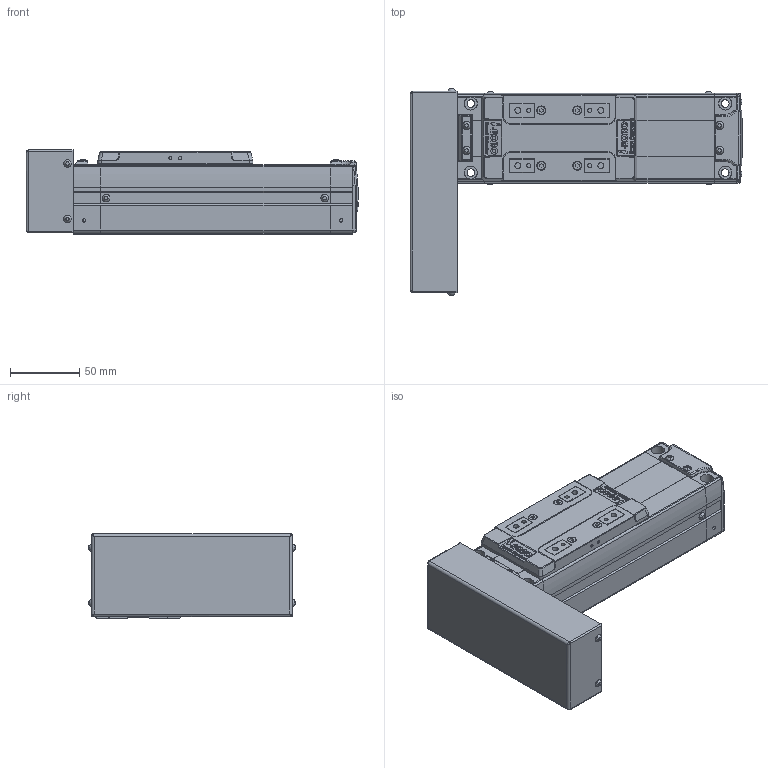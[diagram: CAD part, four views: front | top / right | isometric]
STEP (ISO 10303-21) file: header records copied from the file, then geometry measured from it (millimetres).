
FILE_DESCRIPTION(('STEP AP214'),'1');
FILE_NAME('Z:/Web/3D/SAN65/STP/SAN65ㅁㅁ-050PR.stp','2012-06-14T00:17:18',(' '),(' '),'Spatial InterOp 3D',' ',' ');
FILE_SCHEMA(('automotive_design'));
Length unit declared in the file: metre
Products named in the file (34): SAN65__-050; BODY-SAN65; REAR-SAN65; RRCV-SAN65; 스크루 : Round - M3.0 x 6.0; FRONT-SAN65; SHAFT-SAN65; RN8 x 0.75; SSFX-SAN65; SLIDE-SAN65; SLCV-SAN65; 스크루 : Countersunk - M3.0 x 6.0; ____204; PR; BTCV-SAN65; BHCS M3 X 6L
Assembly tree (33 placements, depth 4):
  ____204
    SAN65__-050
      BODY-SAN65
      REAR-SAN65
        REAR-SAN65
        RRCV-SAN65
        스크루 : Round - M3.0 x 6.0
        스크루 : Round - M3.0 x 6.0
        스크루 : Round - M3.0 x 6.0
        스크루 : Round - M3.0 x 6.0
        스크루 : Round - M3.0 x 6.0
        스크루 : Round - M3.0 x 6.0
      FRONT-SAN65
        FRONT-SAN65
        SHAFT-SAN65
        RN8 x 0.75
        SSFX-SAN65
        스크루 : Round - M3.0 x 6.0
        스크루 : Round - M3.0 x 6.0
        스크루 : Round - M3.0 x 6.0
        스크루 : Round - M3.0 x 6.0
      SLIDE-SAN65
        SLIDE-SAN65
        SLCV-SAN65
        스크루 : Countersunk - M3.0 x 6.0
        스크루 : Countersunk - M3.0 x 6.0
        스크루 : Countersunk - M3.0 x 6.0
        스크루 : Countersunk - M3.0 x 6.0
    PR
      BTCV-SAN65
      BHCS M3 X 6L
      BHCS M3 X 6L
      BHCS M3 X 6L
      BHCS M3 X 6L
Bounding box: 240.15 x 149.13 x 61 mm (x, y, z)
Volume: 961047 mm3; surface area: 154082.2 mm2
Topology: 28 solids, 28 shells, 1436 faces, 3670 edges, 2388 vertices
Faces by surface type: plane 891, cylinder 404, cone 67, bspline 30, sphere 26, torus 15, extrusion 3
Full cylindrical faces by diameter (mm): 0.571 x2, 0.706 x1, 1.727 x2, 2.132 x1, 2.2 x4, 2.5 x9, 2.528 x4, 3 x6, 3.121 x2, 3.3 x4, 3.4 x8, 3.5 x6, 4.2 x14, 4.849 x4, 5 x3, 5.5 x4, 5.987 x2, 6 x6, 6.35 x1, 7 x1, 8 x4, 9.5 x4, 13 x1, 15 x1, 19 x1, 26 x1, 38.1 x1
Entity records: 58956 total; most frequent: CARTESIAN_POINT 12232, DIRECTION 7227, ORIENTED_EDGE 6852, EDGE_CURVE 3426, AXIS2_PLACEMENT_3D 2449, VERTEX_POINT 2338, VECTOR 2329, LINE 2326
